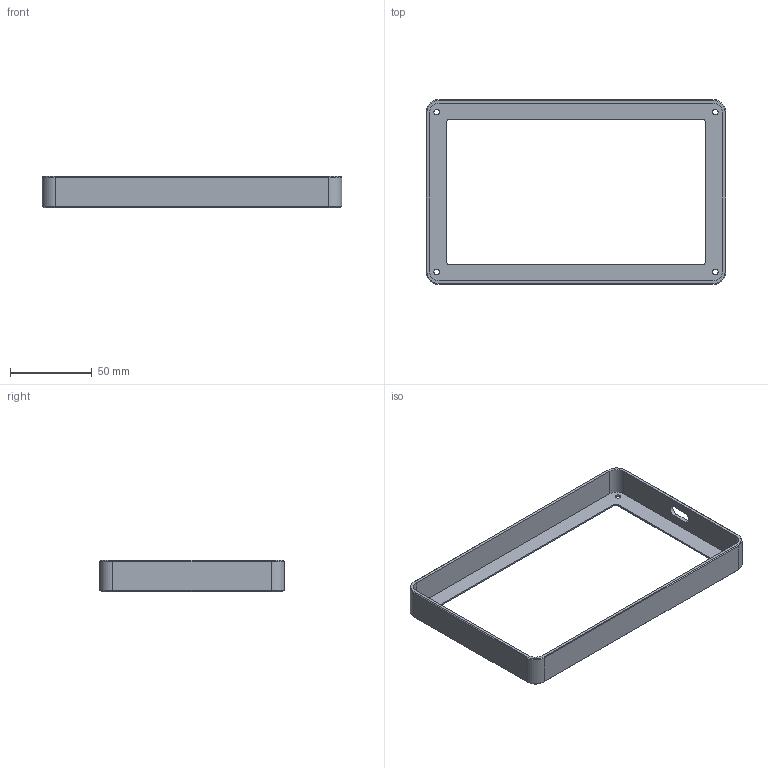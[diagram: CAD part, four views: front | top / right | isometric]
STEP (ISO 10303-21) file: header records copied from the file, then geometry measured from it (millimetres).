
FILE_DESCRIPTION(('Open CASCADE Model'),'2;1');
FILE_NAME('Open CASCADE Shape Model','2026-11-23T07:25:44',('Author'),( 'Open CASCADE'),'Open CASCADE STEP processor 7.9','Open CASCADE 7.9' ,'Unknown');
FILE_SCHEMA(('AUTOMOTIVE_DESIGN { 1 0 10303 214 1 1 1 1 }'));
Length unit declared in the file: millimetre
Products named in the file (1): Open CASCADE STEP translator 7.9 1
Bounding box: 184 x 113.5 x 19.35 mm (x, y, z)
Volume: 36081.7 mm3; surface area: 34298.9 mm2
Topology: 1 solids, 1 shells, 63 faces, 152 edges, 92 vertices
Faces by surface type: plane 29, cylinder 18, cone 12, bspline 4
Full cylindrical faces by diameter (mm): 3.4 x4
Entity records: 3763 total; most frequent: CARTESIAN_POINT 762, DIRECTION 531, ORIENTED_EDGE 304, PCURVE 304, DEFINITIONAL_REPRESENTATION 304, LINE 288, VECTOR 288, EDGE_CURVE 152
